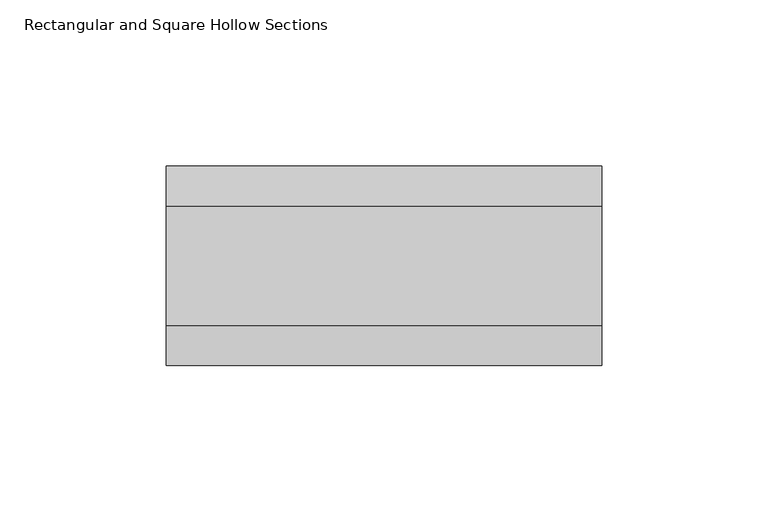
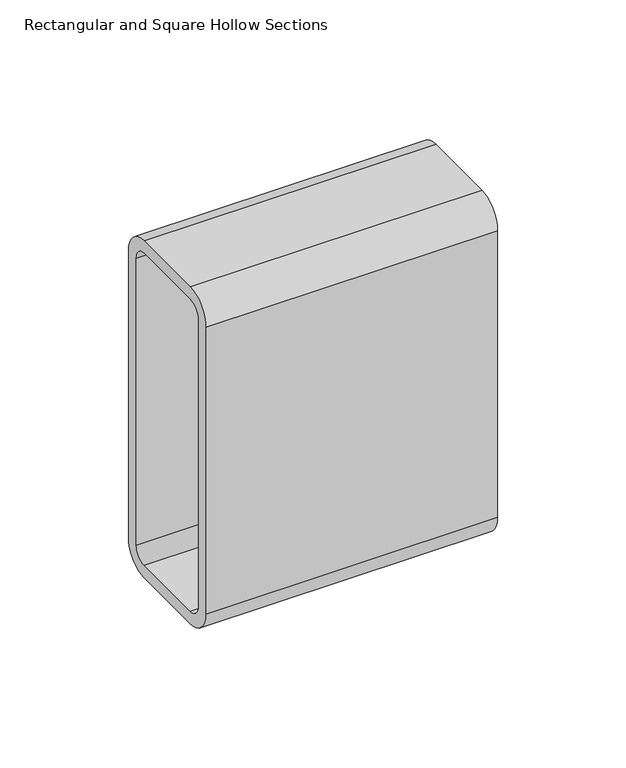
"""IFC4 building model written with IfcOpenShell, lengths in millimetres: beam geometry, Rectangular and Square Hollow Sections : TREC160x60x6."""

from ifc_helpers import new_model, si_unit, point, frame, frame_2d, origin, place, context, project, spatial, polyline, circle_curve, trimmed, segment, composite_curve, outline, extrude, source, transform, mapped, element, save


def rectangular_and_square_hollow_sections_edb9c2be(model_context):
    return source(origin(), model_context, "Body", "SweptSolid", [
        extrude(outline(composite_curve([segment(polyline([(30.0, 68.0), (30.0, -68.0)]), True, "CONTINUOUS"), segment(trimmed(circle_curve(frame_2d((18.0, -68.0)), 12.0), [point((30.0, -68.0))], [point((18.0, -80.0))], False, "CARTESIAN"), True, "CONTINUOUS"), segment(polyline([(18.0, -80.0), (-18.0, -80.0)]), True, "CONTINUOUS"), segment(trimmed(circle_curve(frame_2d((-18.0, -68.0)), 12.0), [point((-18.0, -80.0))], [point((-30.0, -68.0))], False, "CARTESIAN"), True, "CONTINUOUS"), segment(polyline([(-30.0, -68.0), (-30.0, 68.0)]), True, "CONTINUOUS"), segment(trimmed(circle_curve(frame_2d((-18.0, 68.0)), 12.0), [point((-30.0, 68.0))], [point((-18.0, 80.0))], False, "CARTESIAN"), True, "CONTINUOUS"), segment(polyline([(-18.0, 80.0), (18.0, 80.0)]), True, "CONTINUOUS"), segment(trimmed(circle_curve(frame_2d((18.0, 68.0)), 12.0), [point((18.0, 80.0))], [point((30.0, 68.0))], False, "CARTESIAN"), True, "CONTINUOUS")], self_intersect=False), holes=[composite_curve([segment(trimmed(circle_curve(frame_2d((-18.0, 68.0)), 6.0), [point((-18.0, 74.0))], [point((-24.0, 68.0))], True, "CARTESIAN"), True, "CONTINUOUS"), segment(polyline([(-24.0, 68.0), (-24.0, -68.0)]), True, "CONTINUOUS"), segment(trimmed(circle_curve(frame_2d((-18.0, -68.0)), 6.0), [point((-24.0, -68.0))], [point((-18.0, -74.0))], True, "CARTESIAN"), True, "CONTINUOUS"), segment(polyline([(-18.0, -74.0), (18.0, -74.0)]), True, "CONTINUOUS"), segment(trimmed(circle_curve(frame_2d((18.0, -68.0)), 6.0), [point((18.0, -74.0))], [point((24.0, -68.0))], True, "CARTESIAN"), True, "CONTINUOUS"), segment(polyline([(24.0, -68.0), (24.0, 68.0)]), True, "CONTINUOUS"), segment(trimmed(circle_curve(frame_2d((18.0, 68.0)), 6.0), [point((24.0, 68.0))], [point((18.0, 74.0))], True, "CARTESIAN"), True, "CONTINUOUS"), segment(polyline([(18.0, 74.0), (-18.0, 74.0)]), True, "CONTINUOUS")], self_intersect=False)]), frame((-65.5, 0.0, 0.0), z_axis=(1.0, 0.0, 0.0), x_axis=(0.0, 1.0, 0.0)), (0.0, 0.0, 1.0), 131.0),
    ])


if __name__ == "__main__":
    model = new_model("IFC4")
    model_context = context("Model", 3, world=origin())
    ifc_project = project(units=[si_unit("LENGTHUNIT", "METRE", prefix="MILLI")], contexts=[model_context])
    site = spatial("IfcSite", under=ifc_project)
    building = spatial("IfcBuilding", under=site)
    placement = place(None, origin())
    rectangular_and_square_hollow_sections_shape = rectangular_and_square_hollow_sections_edb9c2be(model_context)
    element("IfcBeam", 1, ObjectType="Rectangular and Square Hollow Sections : TREC160x60x6", at=placement, inside=building, context=model_context, shape_type="MappedRepresentation", body=[
        mapped(rectangular_and_square_hollow_sections_shape, transform((0.0, 0.0, 0.0), x_axis=(1.0, 0.0, 0.0), y_axis=(0.0, 1.0, 0.0), z_axis=(0.0, 0.0, 1.0))),
    ])
    save(model, "model.ifc")
